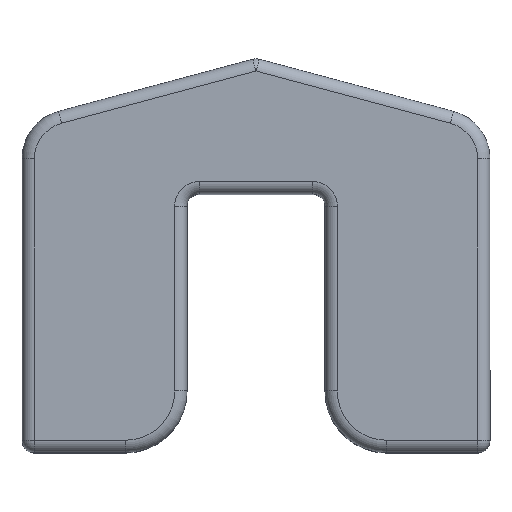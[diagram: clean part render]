
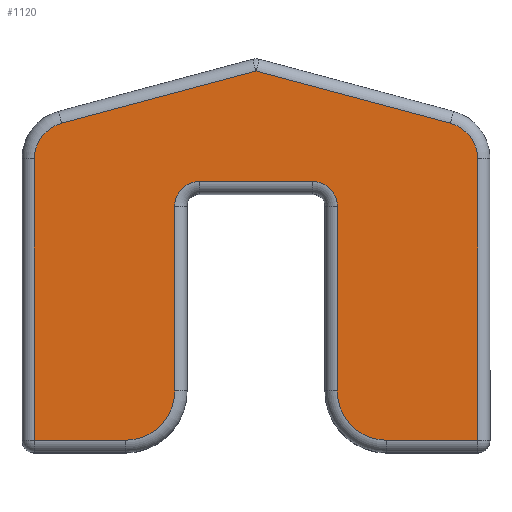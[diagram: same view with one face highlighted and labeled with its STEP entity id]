
A CAD part, top view. The second image highlights one B-rep face of the part: STEP entity #1120.
In plain terms, the highlighted planar face has unit normal (0, 0, 1).
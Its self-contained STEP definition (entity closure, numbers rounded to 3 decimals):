
#22 = DIRECTION ( 'NONE',  ( 0., 1., 0. ) ) ;
#42 = VECTOR ( 'NONE', #56, 1000. ) ;
#45 = ORIENTED_EDGE ( 'NONE', *, *, #1720, .T. ) ;
#50 = VERTEX_POINT ( 'NONE', #300 ) ;
#56 = DIRECTION ( 'NONE',  ( 0., -1., 0. ) ) ;
#111 = LINE ( 'NONE', #936, #1516 ) ;
#133 = AXIS2_PLACEMENT_3D ( 'NONE', #1226, #1796, #1378 ) ;
#146 = ORIENTED_EDGE ( 'NONE', *, *, #967, .T. ) ;
#157 = ORIENTED_EDGE ( 'NONE', *, *, #931, .F. ) ;
#161 = VERTEX_POINT ( 'NONE', #725 ) ;
#182 = CARTESIAN_POINT ( 'NONE',  ( 3.3, 2.5, 7.5 ) ) ;
#204 = ORIENTED_EDGE ( 'NONE', *, *, #880, .T. ) ;
#229 = CARTESIAN_POINT ( 'NONE',  ( -9., 0.5, 7.5 ) ) ;
#233 = FACE_OUTER_BOUND ( 'NONE', #405, .T. ) ;
#250 = DIRECTION ( 'NONE',  ( 0., 0., 1. ) ) ;
#263 = AXIS2_PLACEMENT_3D ( 'NONE', #1439, #1696, #1274 ) ;
#287 = ORIENTED_EDGE ( 'NONE', *, *, #1738, .T. ) ;
#297 = ORIENTED_EDGE ( 'NONE', *, *, #421, .T. ) ;
#298 = VECTOR ( 'NONE', #686, 1000. ) ;
#300 = CARTESIAN_POINT ( 'NONE',  ( -3.3, 10., 7.5 ) ) ;
#302 = CIRCLE ( 'NONE', #1269, 1. ) ;
#340 = DIRECTION ( 'NONE',  ( 0., 1., 0. ) ) ;
#405 = EDGE_LOOP ( 'NONE', ( #157, #297, #204, #1591, #596, #1488, #581, #856, #1296, #409, #146, #287, #45, #988, #1478 ) ) ;
#409 = ORIENTED_EDGE ( 'NONE', *, *, #1124, .T. ) ;
#410 = VECTOR ( 'NONE', #340, 1000. ) ;
#418 = CARTESIAN_POINT ( 'NONE',  ( -7.888, 13.369, 7.5 ) ) ;
#421 = EDGE_CURVE ( 'NONE', #1438, #449, #853, .T. ) ;
#449 = VERTEX_POINT ( 'NONE', #182 ) ;
#507 = VECTOR ( 'NONE', #1406, 1000. ) ;
#510 = CARTESIAN_POINT ( 'NONE',  ( 5.3, 0.5, 7.5 ) ) ;
#518 = VECTOR ( 'NONE', #1138, 1000. ) ;
#536 = CARTESIAN_POINT ( 'NONE',  ( 5.3, 2.5, 7.5 ) ) ;
#537 = CIRCLE ( 'NONE', #1524, 1.5 ) ;
#565 = CARTESIAN_POINT ( 'NONE',  ( -3.3, 2.5, 7.5 ) ) ;
#571 = CARTESIAN_POINT ( 'NONE',  ( -5.3, 0.5, 7.5 ) ) ;
#573 = CARTESIAN_POINT ( 'NONE',  ( 0., 15.482, 7.5 ) ) ;
#581 = ORIENTED_EDGE ( 'NONE', *, *, #1402, .T. ) ;
#596 = ORIENTED_EDGE ( 'NONE', *, *, #1826, .T. ) ;
#656 = PLANE ( 'NONE',  #133 ) ;
#657 = DIRECTION ( 'NONE',  ( -1., 0., 0. ) ) ;
#672 = EDGE_CURVE ( 'NONE', #1191, #50, #1196, .T. ) ;
#686 = DIRECTION ( 'NONE',  ( -0.966, 0.259, 0. ) ) ;
#695 = CARTESIAN_POINT ( 'NONE',  ( 9., 0., 7.5 ) ) ;
#697 = VERTEX_POINT ( 'NONE', #953 ) ;
#711 = CARTESIAN_POINT ( 'NONE',  ( 2.3, 11., 7.5 ) ) ;
#725 = CARTESIAN_POINT ( 'NONE',  ( -9., 11.92, 7.5 ) ) ;
#729 = CARTESIAN_POINT ( 'NONE',  ( 3.3, 0., 7.5 ) ) ;
#742 = EDGE_CURVE ( 'NONE', #1262, #161, #537, .T. ) ;
#756 = DIRECTION ( 'NONE',  ( -1., 0., 0. ) ) ;
#789 = LINE ( 'NONE', #938, #410 ) ;
#817 = LINE ( 'NONE', #1706, #518 ) ;
#818 = DIRECTION ( 'NONE',  ( 1., 0., 0. ) ) ;
#853 = LINE ( 'NONE', #729, #42 ) ;
#856 = ORIENTED_EDGE ( 'NONE', *, *, #1357, .T. ) ;
#880 = EDGE_CURVE ( 'NONE', #449, #910, #1454, .T. ) ;
#883 = CIRCLE ( 'NONE', #944, 1.5 ) ;
#910 = VERTEX_POINT ( 'NONE', #510 ) ;
#931 = EDGE_CURVE ( 'NONE', #1438, #1492, #302, .T. ) ;
#936 = CARTESIAN_POINT ( 'NONE',  ( 0., 0.5, 7.5 ) ) ;
#938 = CARTESIAN_POINT ( 'NONE',  ( -3.3, 0., 7.5 ) ) ;
#944 = AXIS2_PLACEMENT_3D ( 'NONE', #1252, #1827, #1395 ) ;
#953 = CARTESIAN_POINT ( 'NONE',  ( 9., 0.5, 7.5 ) ) ;
#967 = EDGE_CURVE ( 'NONE', #1707, #1501, #111, .T. ) ;
#978 = CARTESIAN_POINT ( 'NONE',  ( 0., 11., 7.5 ) ) ;
#988 = ORIENTED_EDGE ( 'NONE', *, *, #672, .F. ) ;
#1000 = EDGE_CURVE ( 'NONE', #1160, #1757, #883, .T. ) ;
#1025 = CARTESIAN_POINT ( 'NONE',  ( 7.888, 13.369, 7.5 ) ) ;
#1031 = DIRECTION ( 'NONE',  ( 0., 0., 1. ) ) ;
#1053 = EDGE_CURVE ( 'NONE', #910, #697, #1767, .T. ) ;
#1099 = DIRECTION ( 'NONE',  ( 1., 0., 0. ) ) ;
#1105 = DIRECTION ( 'NONE',  ( -1., 0., 0. ) ) ;
#1107 = LINE ( 'NONE', #978, #1172 ) ;
#1112 = LINE ( 'NONE', #1658, #298 ) ;
#1120 = ADVANCED_FACE ( 'NONE', ( #233 ), #656, .F. ) ;
#1124 = EDGE_CURVE ( 'NONE', #161, #1707, #817, .T. ) ;
#1138 = DIRECTION ( 'NONE',  ( 0., -1., 0. ) ) ;
#1160 = VERTEX_POINT ( 'NONE', #1251 ) ;
#1165 = LINE ( 'NONE', #695, #1777 ) ;
#1172 = VECTOR ( 'NONE', #1403, 1000. ) ;
#1184 = EDGE_CURVE ( 'NONE', #1191, #1492, #1107, .T. ) ;
#1191 = VERTEX_POINT ( 'NONE', #1825 ) ;
#1196 = CIRCLE ( 'NONE', #1821, 1. ) ;
#1211 = DIRECTION ( 'NONE',  ( 0., 0., 1. ) ) ;
#1218 = VERTEX_POINT ( 'NONE', #565 ) ;
#1226 = CARTESIAN_POINT ( 'NONE',  ( 0., 0., 7.5 ) ) ;
#1244 = DIRECTION ( 'NONE',  ( 0., 0., 1. ) ) ;
#1251 = CARTESIAN_POINT ( 'NONE',  ( 9., 11.92, 7.5 ) ) ;
#1252 = CARTESIAN_POINT ( 'NONE',  ( 7.5, 11.92, 7.5 ) ) ;
#1256 = CARTESIAN_POINT ( 'NONE',  ( -3.871, 14.445, 7.5 ) ) ;
#1262 = VERTEX_POINT ( 'NONE', #418 ) ;
#1269 = AXIS2_PLACEMENT_3D ( 'NONE', #1379, #1211, #1387 ) ;
#1274 = DIRECTION ( 'NONE',  ( -1., 0., 0. ) ) ;
#1296 = ORIENTED_EDGE ( 'NONE', *, *, #742, .T. ) ;
#1357 = EDGE_CURVE ( 'NONE', #1735, #1262, #1669, .T. ) ;
#1360 = CARTESIAN_POINT ( 'NONE',  ( 0., 0.5, 7.5 ) ) ;
#1378 = DIRECTION ( 'NONE',  ( -1., 0., 0. ) ) ;
#1379 = CARTESIAN_POINT ( 'NONE',  ( 2.3, 10., 7.5 ) ) ;
#1387 = DIRECTION ( 'NONE',  ( -1., 0., 0. ) ) ;
#1395 = DIRECTION ( 'NONE',  ( -1., 0., 0. ) ) ;
#1402 = EDGE_CURVE ( 'NONE', #1757, #1735, #1112, .T. ) ;
#1403 = DIRECTION ( 'NONE',  ( 1., 0., 0. ) ) ;
#1406 = DIRECTION ( 'NONE',  ( -0.966, -0.259, 0. ) ) ;
#1437 = CARTESIAN_POINT ( 'NONE',  ( 3.3, 10., 7.5 ) ) ;
#1438 = VERTEX_POINT ( 'NONE', #1437 ) ;
#1439 = CARTESIAN_POINT ( 'NONE',  ( -5.3, 2.5, 7.5 ) ) ;
#1454 = CIRCLE ( 'NONE', #1750, 2. ) ;
#1478 = ORIENTED_EDGE ( 'NONE', *, *, #1184, .T. ) ;
#1488 = ORIENTED_EDGE ( 'NONE', *, *, #1000, .T. ) ;
#1492 = VERTEX_POINT ( 'NONE', #711 ) ;
#1501 = VERTEX_POINT ( 'NONE', #571 ) ;
#1516 = VECTOR ( 'NONE', #818, 1000. ) ;
#1524 = AXIS2_PLACEMENT_3D ( 'NONE', #1758, #1031, #756 ) ;
#1591 = ORIENTED_EDGE ( 'NONE', *, *, #1053, .T. ) ;
#1658 = CARTESIAN_POINT ( 'NONE',  ( 3.871, 14.445, 7.5 ) ) ;
#1660 = CARTESIAN_POINT ( 'NONE',  ( -2.3, 10., 7.5 ) ) ;
#1669 = LINE ( 'NONE', #1256, #507 ) ;
#1691 = CIRCLE ( 'NONE', #263, 2. ) ;
#1696 = DIRECTION ( 'NONE',  ( 0., 0., 1. ) ) ;
#1706 = CARTESIAN_POINT ( 'NONE',  ( -9., 0., 7.5 ) ) ;
#1707 = VERTEX_POINT ( 'NONE', #229 ) ;
#1720 = EDGE_CURVE ( 'NONE', #1218, #50, #789, .T. ) ;
#1735 = VERTEX_POINT ( 'NONE', #573 ) ;
#1738 = EDGE_CURVE ( 'NONE', #1501, #1218, #1691, .T. ) ;
#1750 = AXIS2_PLACEMENT_3D ( 'NONE', #536, #1244, #657 ) ;
#1757 = VERTEX_POINT ( 'NONE', #1025 ) ;
#1758 = CARTESIAN_POINT ( 'NONE',  ( -7.5, 11.92, 7.5 ) ) ;
#1767 = LINE ( 'NONE', #1360, #1839 ) ;
#1777 = VECTOR ( 'NONE', #22, 1000. ) ;
#1796 = DIRECTION ( 'NONE',  ( 0., 0., -1. ) ) ;
#1821 = AXIS2_PLACEMENT_3D ( 'NONE', #1660, #250, #1105 ) ;
#1825 = CARTESIAN_POINT ( 'NONE',  ( -2.3, 11., 7.5 ) ) ;
#1826 = EDGE_CURVE ( 'NONE', #697, #1160, #1165, .T. ) ;
#1827 = DIRECTION ( 'NONE',  ( 0., 0., 1. ) ) ;
#1839 = VECTOR ( 'NONE', #1099, 1000. ) ;
